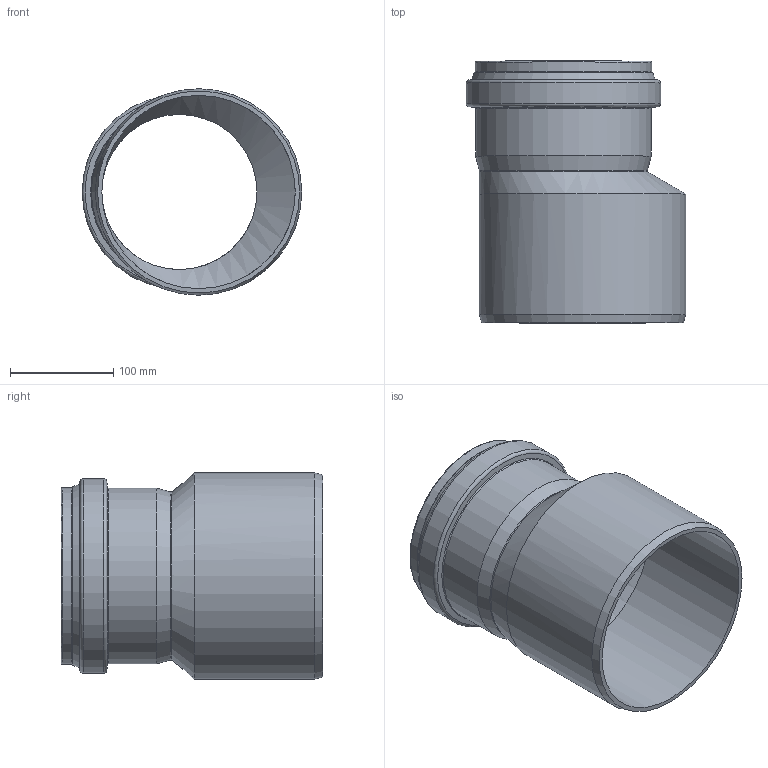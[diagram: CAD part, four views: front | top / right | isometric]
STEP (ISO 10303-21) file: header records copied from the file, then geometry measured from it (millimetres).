
FILE_DESCRIPTION(/* description */ (''),/* implementation_level */ '2;1');
FILE_NAME(/* name */ '775560.stp',/* time_stamp */ '2026-02-25T12:21:34+01:00',/* author */ ('corinna'),/* organization */ (''),/* preprocessor_version */ 'ST-DEVELOPER v20',/* originating_system */ 'Autodesk Inventor 2024',/* authorisation */ '');
FILE_SCHEMA (('AUTOMOTIVE_DESIGN { 1 0 10303 214 3 1 1 }'));
Length unit declared in the file: millimetre
Products named in the file (1): 775560
Bounding box: 213.05 x 254 x 200.3 mm (x, y, z)
Volume: 879402 mm3; surface area: 318138.2 mm2
Topology: 1 solids, 1 shells, 40 faces, 107 edges, 70 vertices
Faces by surface type: torus 14, cylinder 11, cone 10, plane 3, bspline 2
Full cylindrical faces by diameter (mm): 150.5 x1, 161.5 x1, 162.2 x2, 163.1 x1, 170.5 x1, 171.2 x1, 179.6 x1, 187.7 x1, 188.6 x1, 200.3 x1
Entity records: 1375 total; most frequent: DIRECTION 268, CARTESIAN_POINT 253, ORIENTED_EDGE 214, AXIS2_PLACEMENT_3D 123, EDGE_CURVE 107, CIRCLE 84, VERTEX_POINT 70, EDGE_LOOP 43
